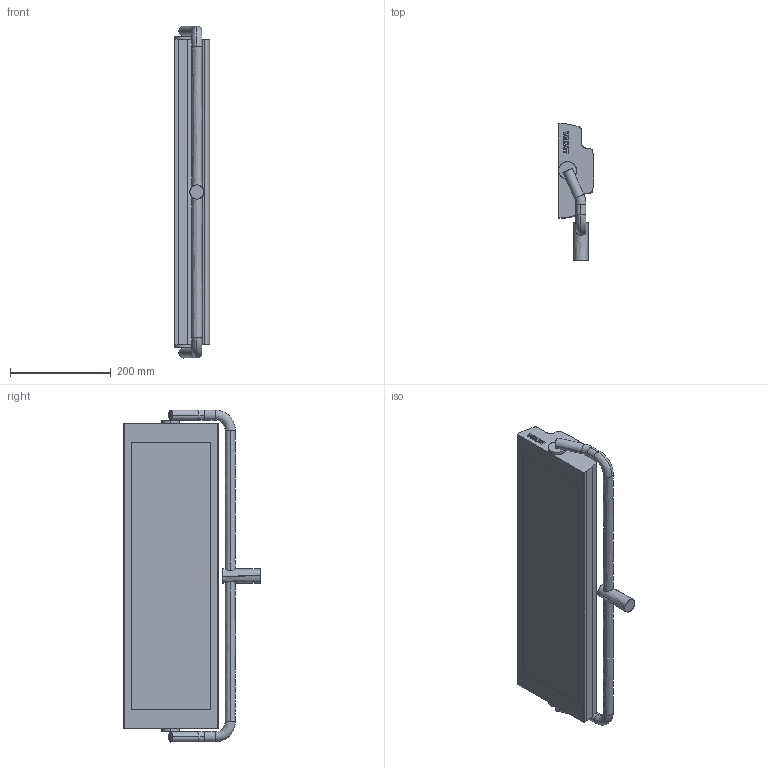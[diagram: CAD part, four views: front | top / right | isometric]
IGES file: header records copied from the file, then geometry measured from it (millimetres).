
Start section: SolidWorks IGES file using analytic representation for surfaces
Global section: file name: C:\Users\Eddy\Desktop\MINI 2 IP54.IGS; native system: SolidWorks 2023; preprocessor: SolidWorks 2023; author: Eddy; date: 240715.150213; units: millimetre
Bounding box: 70.41 x 271.29 x 658 mm (x, y, z)
Surface area: 375269.6 mm2 (no closed solid volume)
Topology: 0 solids, 0 shells, 292 faces, 3782 edges, 3782 vertices
Faces by surface type: bspline 262, revolution 30
